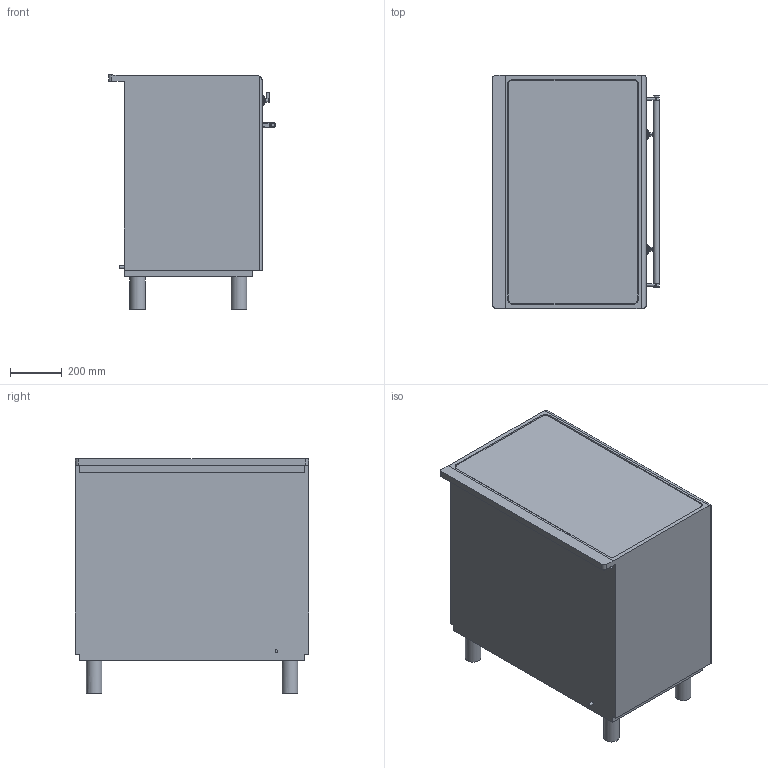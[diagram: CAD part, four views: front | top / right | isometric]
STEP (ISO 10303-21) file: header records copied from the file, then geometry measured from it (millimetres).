
FILE_DESCRIPTION(/* description */ ('Unknown'),/* implementation_level */ '2;1');
FILE_NAME(/* name */ 'CG90CIXT',/* time_stamp */ '2025-04-10T11:48:06+02:00',/* author */ ('Unknown'),/* organization */ ('Unknown'),/* preprocessor_version */ 'ST-DEVELOPER v16.7',/* originating_system */ 'DEX',/* authorisation */ $);
FILE_SCHEMA (('AUTOMOTIVE_DESIGN {1 0 10303 214 3 1 1}'));
Length unit declared in the file: millimetre
Products named in the file (1): CG90CIXT
Bounding box: 642.95 x 898 x 904.7 mm (x, y, z)
Volume: 338997024.1 mm3; surface area: 6321674.3 mm2
Topology: 7 solids, 7 shells, 221 faces, 571 edges, 388 vertices
Faces by surface type: plane 125, cylinder 64, bspline 24, torus 4, cone 4
Full cylindrical faces by diameter (mm): 4.608 x6, 8 x2, 8.5 x2, 10 x1, 13 x2, 13.5 x2, 14.995 x2, 22 x3, 60 x4
Entity records: 9064 total; most frequent: CARTESIAN_POINT 2456, ORIENTED_EDGE 1056, DIRECTION 1013, EDGE_CURVE 528, VERTEX_POINT 371, AXIS2_PLACEMENT_3D 361, LINE 291, VECTOR 291
